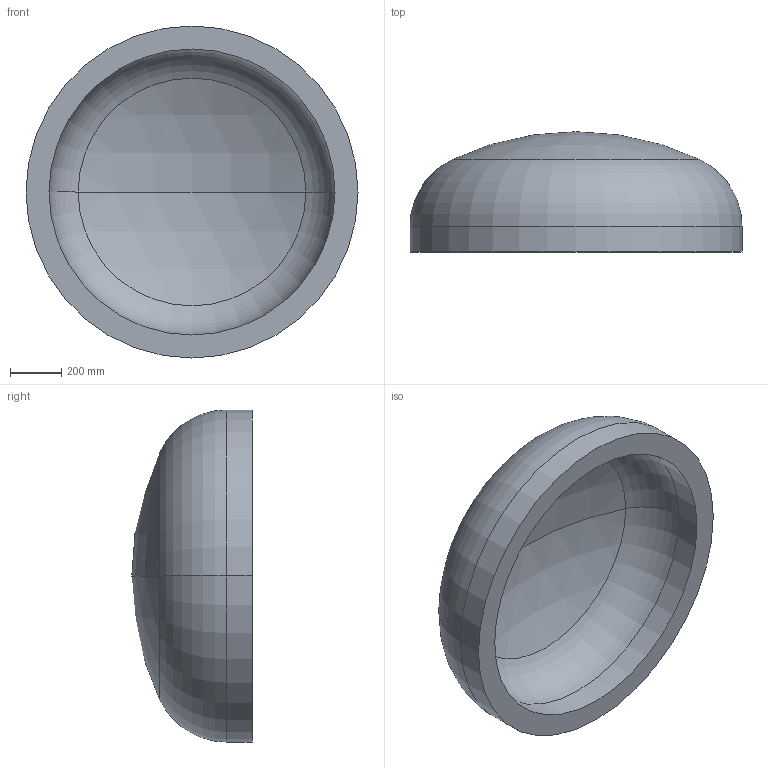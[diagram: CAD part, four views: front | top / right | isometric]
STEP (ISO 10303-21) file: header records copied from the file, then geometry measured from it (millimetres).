
FILE_DESCRIPTION (( 'STEP AP203' ), '1' );
FILE_NAME ('DIN 28013 Korbbogenform_-_Boden DIN 28013 - 1300 x 100 - I - s=90.step', '2016-07-01T10:00:29', ( '' ), ( '' ), 'SwSTEP 2.0', 'SolidWorks 2013', '' );
FILE_SCHEMA (( 'CONFIG_CONTROL_DESIGN' ));
Length unit declared in the file: millimetre
Products named in the file (1): DIN 28013 Korbbogenform_-_Boden DIN 28013 - 1300 x 100 - I - s=90
Bounding box: 1300 x 471.05 x 1300 mm (x, y, z)
Volume: 185751274.5 mm3; surface area: 4486889.3 mm2
Topology: 1 solids, 1 shells, 13 faces, 24 edges, 14 vertices
Faces by surface type: torus 4, cylinder 4, sphere 4, plane 1
Entity records: 407 total; most frequent: DIRECTION 72, CARTESIAN_POINT 52, ORIENTED_EDGE 48, AXIS2_PLACEMENT_3D 34, EDGE_CURVE 24, CIRCLE 20, VERTEX_POINT 14, EDGE_LOOP 14
